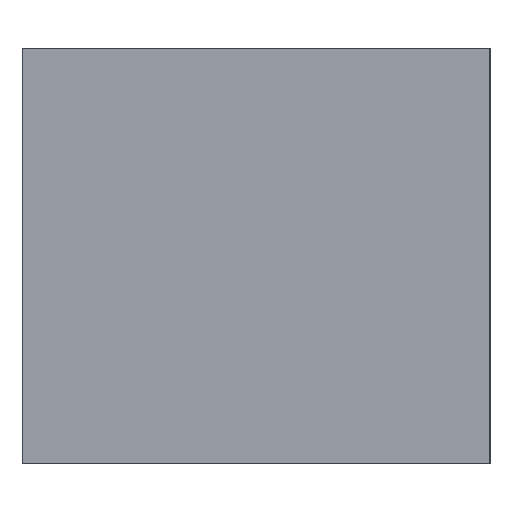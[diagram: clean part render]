
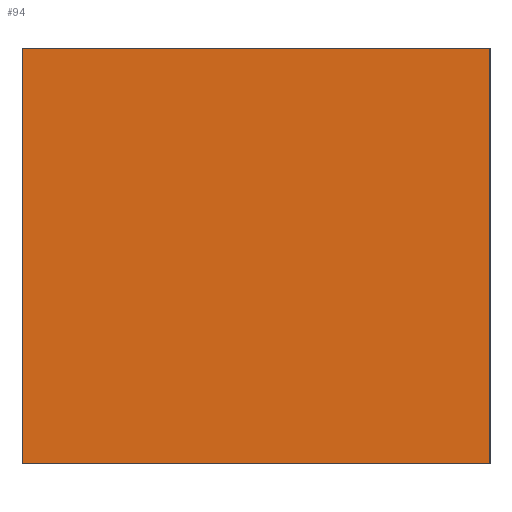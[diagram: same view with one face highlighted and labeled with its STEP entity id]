
A CAD part, left-side view. The second image highlights one B-rep face of the part: STEP entity #94.
In plain terms, the highlighted planar face has unit normal (-1, 0, 0).
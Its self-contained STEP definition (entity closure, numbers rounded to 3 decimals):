
#94 = ADVANCED_FACE( '', ( #137 ), #138, .F. );
#137 = FACE_OUTER_BOUND( '', #181, .T. );
#138 = PLANE( '', #182 );
#181 = EDGE_LOOP( '', ( #336, #337, #338, #339 ) );
#182 = AXIS2_PLACEMENT_3D( '', #340, #341, #342 );
#336 = ORIENTED_EDGE( '', *, *, #386, .F. );
#337 = ORIENTED_EDGE( '', *, *, #396, .F. );
#338 = ORIENTED_EDGE( '', *, *, #375, .T. );
#339 = ORIENTED_EDGE( '', *, *, #381, .F. );
#340 = CARTESIAN_POINT( '', ( -18., 0., 0. ) );
#341 = DIRECTION( '', ( 1., 0., 0. ) );
#342 = DIRECTION( '', ( 0., 0., -1. ) );
#375 = EDGE_CURVE( '', #447, #445, #448, .T. );
#381 = EDGE_CURVE( '', #456, #445, #458, .T. );
#386 = EDGE_CURVE( '', #464, #456, #466, .T. );
#396 = EDGE_CURVE( '', #447, #464, #481, .T. );
#445 = VERTEX_POINT( '', #542 );
#447 = VERTEX_POINT( '', #545 );
#448 = LINE( '', #546, #547 );
#456 = VERTEX_POINT( '', #559 );
#458 = LINE( '', #562, #563 );
#464 = VERTEX_POINT( '', #572 );
#466 = LINE( '', #575, #576 );
#481 = LINE( '', #596, #597 );
#542 = CARTESIAN_POINT( '', ( -18., -27., -12. ) );
#545 = CARTESIAN_POINT( '', ( -18., 0., -12. ) );
#546 = CARTESIAN_POINT( '', ( -18., 0., -12. ) );
#547 = VECTOR( '', #655, 1. );
#559 = CARTESIAN_POINT( '', ( -18., -27., 12. ) );
#562 = CARTESIAN_POINT( '', ( -18., -27., 12. ) );
#563 = VECTOR( '', #661, 1. );
#572 = CARTESIAN_POINT( '', ( -18., 0., 12. ) );
#575 = CARTESIAN_POINT( '', ( -18., -23., 12. ) );
#576 = VECTOR( '', #666, 1. );
#596 = CARTESIAN_POINT( '', ( -18., 0., -12. ) );
#597 = VECTOR( '', #684, 1. );
#655 = DIRECTION( '', ( 0., -1., 0. ) );
#661 = DIRECTION( '', ( 0., 0., -1. ) );
#666 = DIRECTION( '', ( 0., -1., 0. ) );
#684 = DIRECTION( '', ( 0., 0., 1. ) );
